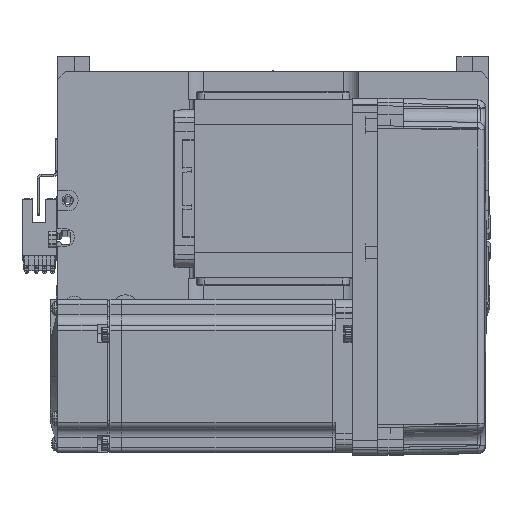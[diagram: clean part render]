
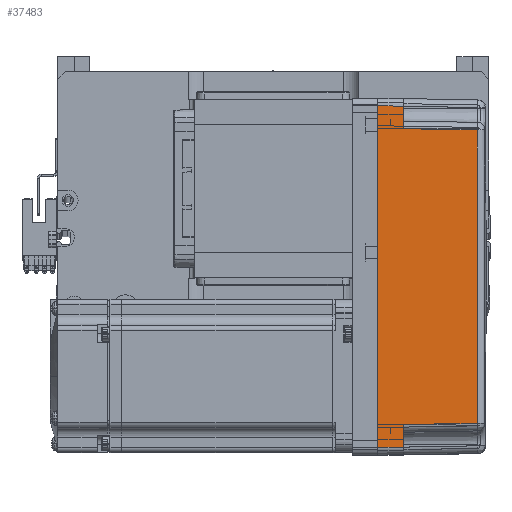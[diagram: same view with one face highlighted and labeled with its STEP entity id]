
A CAD part, top view. The second image highlights one B-rep face of the part: STEP entity #37483.
In plain terms, the highlighted planar face has unit normal (0.018, 0, 1) as drawn and (0, 1, 0.017) by its records, which use the part's own axes.
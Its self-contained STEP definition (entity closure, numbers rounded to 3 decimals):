
#372 = VERTEX_POINT ( 'NONE', #30955 ) ;
#1039 = ORIENTED_EDGE ( 'NONE', *, *, #34753, .T. ) ;
#2649 = ORIENTED_EDGE ( 'NONE', *, *, #27751, .T. ) ;
#6826 = LINE ( 'NONE', #28231, #55122 ) ;
#7353 = CARTESIAN_POINT ( 'NONE',  ( 57.495, 35.32, 38.985 ) ) ;
#8580 = DIRECTION ( 'NONE',  ( 1., 0., 0. ) ) ;
#10510 = CARTESIAN_POINT ( 'NONE',  ( -19.165, 35.316, 39.181 ) ) ;
#10576 = CARTESIAN_POINT ( 'NONE',  ( -58., 35.825, 10. ) ) ;
#11095 = EDGE_CURVE ( 'NONE', #25805, #61231, #44141, .T. ) ;
#11633 = DIRECTION ( 'NONE',  ( 0.017, -0.017, 1. ) ) ;
#14267 = EDGE_CURVE ( 'NONE', #56799, #48531, #16901, .T. ) ;
#14574 = ORIENTED_EDGE ( 'NONE', *, *, #11095, .F. ) ;
#16901 = LINE ( 'NONE', #60058, #50351 ) ;
#17158 = FACE_OUTER_BOUND ( 'NONE', #21894, .T. ) ;
#19165 = CARTESIAN_POINT ( 'NONE',  ( 57.495, 35.32, 38.985 ) ) ;
#20168 = DIRECTION ( 'NONE',  ( -0.017, -0.017, 1. ) ) ;
#21894 = EDGE_LOOP ( 'NONE', ( #50442, #2649, #63393, #1039, #54151, #53211, #14574, #41567 ) ) ;
#21977 = CARTESIAN_POINT ( 'NONE',  ( 70., 36., 0. ) ) ;
#22376 = LINE ( 'NONE', #28202, #38633 ) ;
#24873 = CARTESIAN_POINT ( 'NONE',  ( 67., 36., 0. ) ) ;
#25415 = LINE ( 'NONE', #19165, #50294 ) ;
#25805 = VERTEX_POINT ( 'NONE', #24873 ) ;
#26188 = VERTEX_POINT ( 'NONE', #10576 ) ;
#27360 = EDGE_CURVE ( 'NONE', #56799, #25805, #6826, .T. ) ;
#27595 = CARTESIAN_POINT ( 'NONE',  ( 67.001, 36.001, -0.052 ) ) ;
#27751 = EDGE_CURVE ( 'NONE', #48531, #26188, #59811, .T. ) ;
#28202 = CARTESIAN_POINT ( 'NONE',  ( 70., 35.825, 10. ) ) ;
#28231 = CARTESIAN_POINT ( 'NONE',  ( 0., 36., 0. ) ) ;
#28627 = EDGE_CURVE ( 'NONE', #26188, #372, #31604, .T. ) ;
#30955 = CARTESIAN_POINT ( 'NONE',  ( -57.495, 35.32, 38.985 ) ) ;
#31099 = DIRECTION ( 'NONE',  ( 0.017, -0.017, 1. ) ) ;
#31372 = AXIS2_PLACEMENT_3D ( 'NONE', #21977, #37313, #47149 ) ;
#31604 = LINE ( 'NONE', #60956, #50254 ) ;
#31715 = VECTOR ( 'NONE', #52296, 1000. ) ;
#32089 = CARTESIAN_POINT ( 'NONE',  ( -66.826, 35.825, 10. ) ) ;
#34753 = EDGE_CURVE ( 'NONE', #372, #63047, #38045, .T. ) ;
#36157 = CARTESIAN_POINT ( 'NONE',  ( 58., 35.825, 10. ) ) ;
#36331 = CARTESIAN_POINT ( 'NONE',  ( -67., 36., 0. ) ) ;
#37313 = DIRECTION ( 'NONE',  ( 0., 1., 0.017 ) ) ;
#37483 = ADVANCED_FACE ( 'NONE', ( #17158 ), #47795, .T. ) ;
#37486 = DIRECTION ( 'NONE',  ( 1., 0., 0. ) ) ;
#38045 = B_SPLINE_CURVE_WITH_KNOTS ( 'NONE', 3,
 ( #50353, #10510, #55590, #45526 ),
 .UNSPECIFIED., .F., .F.,
 ( 4, 4 ),
 ( 0., 1. ),
 .UNSPECIFIED. ) ;
#38633 = VECTOR ( 'NONE', #8580, 1000. ) ;
#41555 = EDGE_CURVE ( 'NONE', #46311, #61231, #22376, .T. ) ;
#41567 = ORIENTED_EDGE ( 'NONE', *, *, #27360, .F. ) ;
#43707 = DIRECTION ( 'NONE',  ( 0.017, 0.017, -1. ) ) ;
#44141 = LINE ( 'NONE', #27595, #62897 ) ;
#45526 = CARTESIAN_POINT ( 'NONE',  ( 57.495, 35.32, 38.985 ) ) ;
#46311 = VERTEX_POINT ( 'NONE', #36157 ) ;
#47149 = DIRECTION ( 'NONE',  ( 0., -0.017, 1. ) ) ;
#47795 = PLANE ( 'NONE',  #31372 ) ;
#48531 = VERTEX_POINT ( 'NONE', #32089 ) ;
#50254 = VECTOR ( 'NONE', #31099, 1000. ) ;
#50294 = VECTOR ( 'NONE', #43707, 1000. ) ;
#50351 = VECTOR ( 'NONE', #11633, 1000. ) ;
#50353 = CARTESIAN_POINT ( 'NONE',  ( -57.495, 35.32, 38.985 ) ) ;
#50442 = ORIENTED_EDGE ( 'NONE', *, *, #14267, .T. ) ;
#52296 = DIRECTION ( 'NONE',  ( 1., 0., 0. ) ) ;
#53211 = ORIENTED_EDGE ( 'NONE', *, *, #41555, .T. ) ;
#54151 = ORIENTED_EDGE ( 'NONE', *, *, #55669, .T. ) ;
#55122 = VECTOR ( 'NONE', #37486, 1000. ) ;
#55590 = CARTESIAN_POINT ( 'NONE',  ( 19.165, 35.316, 39.181 ) ) ;
#55669 = EDGE_CURVE ( 'NONE', #63047, #46311, #25415, .T. ) ;
#56799 = VERTEX_POINT ( 'NONE', #36331 ) ;
#57124 = CARTESIAN_POINT ( 'NONE',  ( 70., 35.825, 10. ) ) ;
#59811 = LINE ( 'NONE', #57124, #31715 ) ;
#60058 = CARTESIAN_POINT ( 'NONE',  ( -67., 36., 0. ) ) ;
#60956 = CARTESIAN_POINT ( 'NONE',  ( -58., 35.825, 10. ) ) ;
#61231 = VERTEX_POINT ( 'NONE', #63978 ) ;
#62897 = VECTOR ( 'NONE', #20168, 1000. ) ;
#63047 = VERTEX_POINT ( 'NONE', #7353 ) ;
#63393 = ORIENTED_EDGE ( 'NONE', *, *, #28627, .T. ) ;
#63978 = CARTESIAN_POINT ( 'NONE',  ( 66.826, 35.825, 10. ) ) ;
